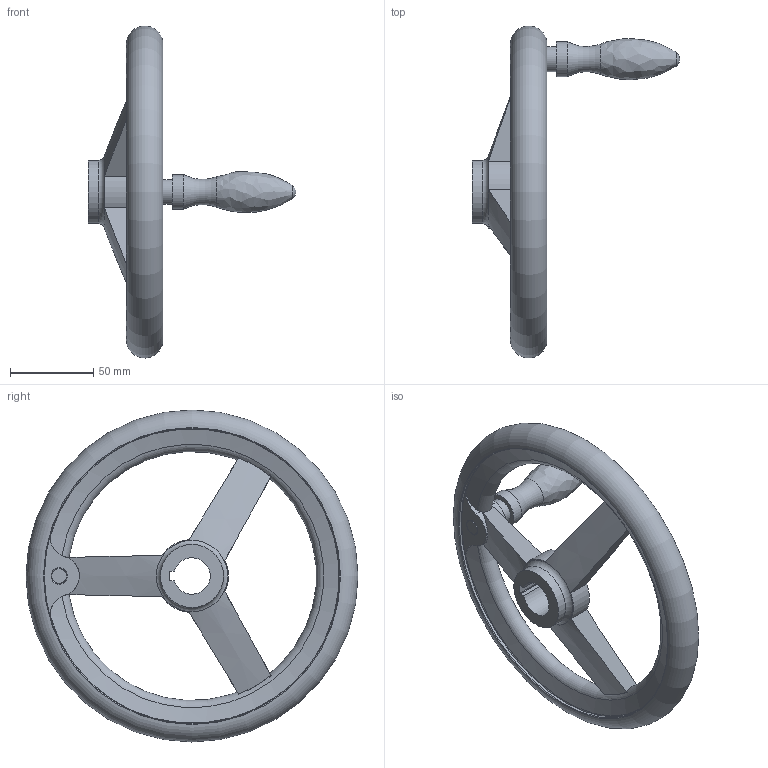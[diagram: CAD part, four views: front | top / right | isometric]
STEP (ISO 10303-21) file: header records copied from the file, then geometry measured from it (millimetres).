
FILE_DESCRIPTION( ( 'STEP AP203' ), '1' );
FILE_NAME( 'C:/Temp/Ganter_Step_05_03_2020/data/1_3/din_950/din_950_k/din_950_k_d/Handwheel DIN 950-GG-200-K22-D.stp', '2020-03-05T10:30:58', ( 'License CC BY-ND 4.0' ), ( 'CADENAS' ), ' ', 'PARTsolutions', ' ' );
FILE_SCHEMA( ( 'CONFIG_CONTROL_DESIGN' ) );
Length unit declared in the file: millimetre
Products named in the file (1): _Handwheel DIN 950-GG-200-K22-D
Bounding box: 125 x 199.99 x 199.99 mm (x, y, z)
Volume: 297033.1 mm3; surface area: 64225.6 mm2
Topology: 1 solids, 1 shells, 56 faces, 155 edges, 99 vertices
Faces by surface type: cylinder 18, torus 15, plane 15, cone 6, bspline 1, sphere 1
Full cylindrical faces by diameter (mm): 15 x1, 21 x1, 38 x2, 178 x2
Entity records: 2134 total; most frequent: CARTESIAN_POINT 811, ORIENTED_EDGE 258, DIRECTION 248, EDGE_CURVE 129, AXIS2_PLACEMENT_3D 111, VERTEX_POINT 95, EDGE_LOOP 82, FACE_OUTER_BOUND 71
